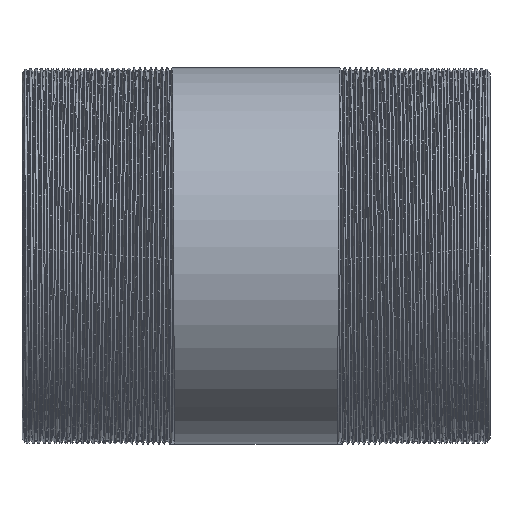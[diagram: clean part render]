
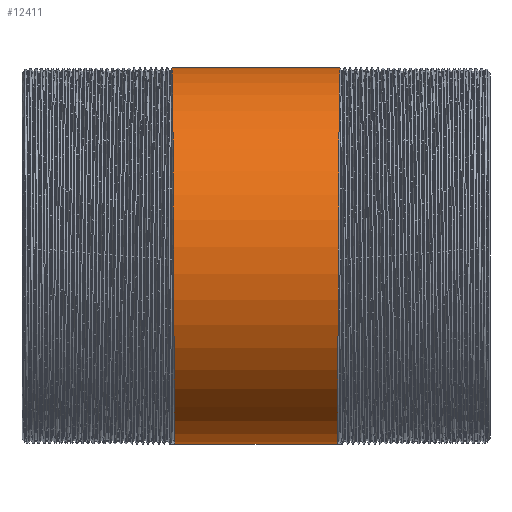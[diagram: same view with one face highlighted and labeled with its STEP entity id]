
A CAD part, front view. The second image highlights one B-rep face of the part: STEP entity #12411.
In plain terms, the highlighted cylindrical face has radius 24.15 mm (diameter 48.3 mm), a partial arc.
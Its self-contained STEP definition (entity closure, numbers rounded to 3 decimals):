
#444 = CARTESIAN_POINT ( 'NONE',  ( -10.563, -27.886, 0. ) ) ;
#524 = CARTESIAN_POINT ( 'NONE',  ( 10.621, -20.915, 12.075 ) ) ;
#819 = CARTESIAN_POINT ( 'NONE',  ( -149.494, 0., 0. ) ) ;
#1758 = CARTESIAN_POINT ( 'NONE',  ( -149.494, 0., -24.15 ) ) ;
#2589 = VERTEX_POINT ( 'NONE', #8653 ) ;
#3670 = ORIENTED_EDGE ( 'NONE', *, *, #12721, .T. ) ;
#3841 = ORIENTED_EDGE ( 'NONE', *, *, #8586, .T. ) ;
#3977 =( BOUNDED_CURVE ( )  B_SPLINE_CURVE ( 2, ( #5405, #13810, #10932, #12486, #524, #9161, #17678 ),
 .UNSPECIFIED., .F., .F. ) 
 B_SPLINE_CURVE_WITH_KNOTS ( ( 3, 2, 2, 3 ),
 ( 0., 0.006, 0.011, 0.017 ),
 .UNSPECIFIED. ) 
 CURVE ( )  GEOMETRIC_REPRESENTATION_ITEM ( )  RATIONAL_B_SPLINE_CURVE ( ( 1., 0.866, 1., 0.866, 1., 0.866, 1. ) ) 
 REPRESENTATION_ITEM ( '' )  );
#4102 = CARTESIAN_POINT ( 'NONE',  ( -10.446, -13.943, -24.15 ) ) ;
#4258 = DIRECTION ( 'NONE',  ( 0., 0., 1. ) ) ;
#4520 = AXIS2_PLACEMENT_3D ( 'NONE', #819, #19413, #4258 ) ;
#4863 = EDGE_LOOP ( 'NONE', ( #5418, #3670, #3841, #16784 ) ) ;
#5084 = DIRECTION ( 'NONE',  ( -1., 0., 0. ) ) ;
#5405 = CARTESIAN_POINT ( 'NONE',  ( 10.388, 0., -24.15 ) ) ;
#5418 = ORIENTED_EDGE ( 'NONE', *, *, #14532, .F. ) ;
#5727 = VERTEX_POINT ( 'NONE', #12391 ) ;
#6138 = FACE_OUTER_BOUND ( 'NONE', #4863, .T. ) ;
#6658 = LINE ( 'NONE', #11979, #18185 ) ;
#6887 = DIRECTION ( 'NONE',  ( -1., 0., 0. ) ) ;
#7209 = CARTESIAN_POINT ( 'NONE',  ( -10.621, -20.915, 12.075 ) ) ;
#8586 = EDGE_CURVE ( 'NONE', #2589, #10114, #6658, .T. ) ;
#8653 = CARTESIAN_POINT ( 'NONE',  ( 10.738, 0., 24.15 ) ) ;
#8865 = CARTESIAN_POINT ( 'NONE',  ( -10.388, 0., -24.15 ) ) ;
#8973 = CARTESIAN_POINT ( 'NONE',  ( -10.738, 0., 24.15 ) ) ;
#9161 = CARTESIAN_POINT ( 'NONE',  ( 10.679, -13.943, 24.15 ) ) ;
#9349 =( BOUNDED_CURVE ( )  B_SPLINE_CURVE ( 2, ( #8865, #4102, #19037, #444, #7209, #13946, #8973 ),
 .UNSPECIFIED., .F., .T. ) 
 B_SPLINE_CURVE_WITH_KNOTS ( ( 3, 2, 2, 3 ),
 ( 0., 0.006, 0.011, 0.017 ),
 .UNSPECIFIED. ) 
 CURVE ( )  GEOMETRIC_REPRESENTATION_ITEM ( )  RATIONAL_B_SPLINE_CURVE ( ( 1., 0.866, 1., 0.866, 1., 0.866, 1. ) ) 
 REPRESENTATION_ITEM ( '' )  );
#10114 = VERTEX_POINT ( 'NONE', #18652 ) ;
#10235 = CARTESIAN_POINT ( 'NONE',  ( 10.388, 0., -24.15 ) ) ;
#10932 = CARTESIAN_POINT ( 'NONE',  ( 10.504, -20.915, -12.075 ) ) ;
#11841 = LINE ( 'NONE', #1758, #20508 ) ;
#11979 = CARTESIAN_POINT ( 'NONE',  ( -149.494, 0., 24.15 ) ) ;
#12391 = CARTESIAN_POINT ( 'NONE',  ( -10.388, 0., -24.15 ) ) ;
#12411 = ADVANCED_FACE ( 'NONE', ( #6138 ), #15978, .T. ) ;
#12486 = CARTESIAN_POINT ( 'NONE',  ( 10.563, -27.886, 0. ) ) ;
#12721 = EDGE_CURVE ( 'NONE', #17164, #2589, #3977, .T. ) ;
#13810 = CARTESIAN_POINT ( 'NONE',  ( 10.446, -13.943, -24.15 ) ) ;
#13946 = CARTESIAN_POINT ( 'NONE',  ( -10.679, -13.943, 24.15 ) ) ;
#14532 = EDGE_CURVE ( 'NONE', #17164, #5727, #11841, .T. ) ;
#15978 = CYLINDRICAL_SURFACE ( 'NONE', #4520, 24.15 ) ;
#16784 = ORIENTED_EDGE ( 'NONE', *, *, #18480, .F. ) ;
#17164 = VERTEX_POINT ( 'NONE', #10235 ) ;
#17678 = CARTESIAN_POINT ( 'NONE',  ( 10.738, 0., 24.15 ) ) ;
#18185 = VECTOR ( 'NONE', #6887, 1000. ) ;
#18480 = EDGE_CURVE ( 'NONE', #5727, #10114, #9349, .T. ) ;
#18652 = CARTESIAN_POINT ( 'NONE',  ( -10.738, 0., 24.15 ) ) ;
#19037 = CARTESIAN_POINT ( 'NONE',  ( -10.504, -20.915, -12.075 ) ) ;
#19413 = DIRECTION ( 'NONE',  ( -1., 0., 0. ) ) ;
#20508 = VECTOR ( 'NONE', #5084, 1000. ) ;
